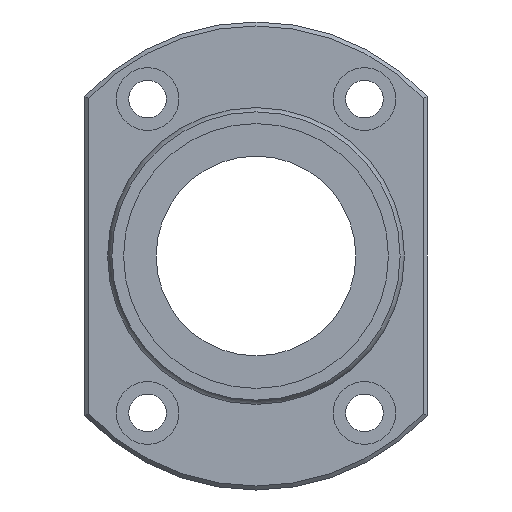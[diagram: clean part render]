
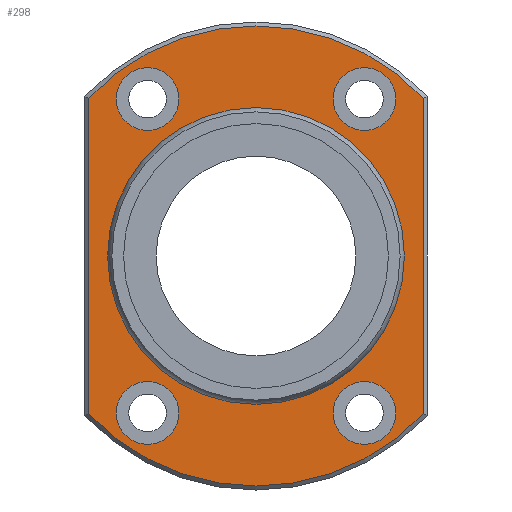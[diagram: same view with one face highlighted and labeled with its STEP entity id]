
A CAD part, left-side view. The second image highlights one B-rep face of the part: STEP entity #298.
In plain terms, the highlighted planar face has unit normal (-1, 0, 0).
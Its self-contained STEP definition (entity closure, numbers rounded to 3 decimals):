
#59=CARTESIAN_POINT('',(62.,-29.3,27.669));
#60=VERTEX_POINT('',#59);
#68=CARTESIAN_POINT('',(62.,-29.3,-27.669));
#69=VERTEX_POINT('',#68);
#70=CARTESIAN_POINT('',(62.,-29.3,27.669));
#71=DIRECTION('',(0.0,0.0,-1.0));
#72=VECTOR('',#71,55.339);
#73=LINE('',#70,#72);
#74=EDGE_CURVE('',#60,#69,#73,.T.);
#101=CARTESIAN_POINT('',(62.,29.3,-27.669));
#102=VERTEX_POINT('',#101);
#103=CARTESIAN_POINT('',(62.,0.0,0.0));
#104=DIRECTION('',(1.0,0.0,0.0));
#105=DIRECTION('',(0.0,0.0,-1.0));
#106=AXIS2_PLACEMENT_3D('',#103,#104,#105);
#107=CIRCLE('',#106,40.3);
#108=EDGE_CURVE('',#69,#102,#107,.T.);
#134=CARTESIAN_POINT('',(62.,29.3,27.669));
#135=VERTEX_POINT('',#134);
#136=CARTESIAN_POINT('',(62.,29.3,-27.669));
#137=DIRECTION('',(0.0,0.0,1.0));
#138=VECTOR('',#137,55.339);
#139=LINE('',#136,#138);
#140=EDGE_CURVE('',#102,#135,#139,.T.);
#165=CARTESIAN_POINT('',(62.,0.0,0.0));
#166=DIRECTION('',(1.0,0.0,0.0));
#167=DIRECTION('',(0.0,0.0,1.0));
#168=AXIS2_PLACEMENT_3D('',#165,#166,#167);
#169=CIRCLE('',#168,40.3);
#170=EDGE_CURVE('',#135,#60,#169,.T.);
#232=CARTESIAN_POINT('',(62.,0.0,33.357));
#233=DIRECTION('',(-1.0,0.0,0.0));
#234=DIRECTION('',(0.0,0.0,1.0));
#235=AXIS2_PLACEMENT_3D('',#232,#233,#234);
#236=PLANE('',#235);
#237=ORIENTED_EDGE('',*,*,#74,.F.);
#238=ORIENTED_EDGE('',*,*,#170,.F.);
#239=ORIENTED_EDGE('',*,*,#140,.F.);
#240=ORIENTED_EDGE('',*,*,#108,.F.);
#241=EDGE_LOOP('',(#237,#238,#239,#240));
#242=FACE_OUTER_BOUND('',#241,.T.);
#243=CARTESIAN_POINT('',(62.0,0.0,25.714));
#244=VERTEX_POINT('',#243);
#245=CARTESIAN_POINT('',(62.0,0.0,0.0));
#246=DIRECTION('',(-1.0,0.0,0.0));
#247=DIRECTION('',(0.0,0.0,1.0));
#248=AXIS2_PLACEMENT_3D('',#245,#246,#247);
#249=CIRCLE('',#248,25.714);
#250=EDGE_CURVE('',#244,#244,#249,.T.);
#251=ORIENTED_EDGE('',*,*,#250,.F.);
#252=EDGE_LOOP('',(#251));
#253=FACE_BOUND('',#252,.T.);
#254=CARTESIAN_POINT('',(62.0,-13.5,-27.5));
#255=VERTEX_POINT('',#254);
#256=CARTESIAN_POINT('',(62.,-19.,-27.5));
#257=DIRECTION('',(1.0,0.0,0.0));
#258=DIRECTION('',(0.0,1.0,0.0));
#259=AXIS2_PLACEMENT_3D('',#256,#257,#258);
#260=CIRCLE('',#259,5.5);
#261=EDGE_CURVE('',#255,#255,#260,.T.);
#262=ORIENTED_EDGE('',*,*,#261,.T.);
#263=EDGE_LOOP('',(#262));
#264=FACE_BOUND('',#263,.T.);
#265=CARTESIAN_POINT('',(62.0,-13.5,27.5));
#266=VERTEX_POINT('',#265);
#267=CARTESIAN_POINT('',(62.,-19.,27.5));
#268=DIRECTION('',(1.0,0.0,0.0));
#269=DIRECTION('',(0.0,1.0,0.0));
#270=AXIS2_PLACEMENT_3D('',#267,#268,#269);
#271=CIRCLE('',#270,5.5);
#272=EDGE_CURVE('',#266,#266,#271,.T.);
#273=ORIENTED_EDGE('',*,*,#272,.T.);
#274=EDGE_LOOP('',(#273));
#275=FACE_BOUND('',#274,.T.);
#276=CARTESIAN_POINT('',(62.0,24.5,-27.5));
#277=VERTEX_POINT('',#276);
#278=CARTESIAN_POINT('',(62.,19.,-27.5));
#279=DIRECTION('',(1.0,0.0,0.0));
#280=DIRECTION('',(0.0,1.0,0.0));
#281=AXIS2_PLACEMENT_3D('',#278,#279,#280);
#282=CIRCLE('',#281,5.5);
#283=EDGE_CURVE('',#277,#277,#282,.T.);
#284=ORIENTED_EDGE('',*,*,#283,.T.);
#285=EDGE_LOOP('',(#284));
#286=FACE_BOUND('',#285,.T.);
#287=CARTESIAN_POINT('',(62.0,24.5,27.5));
#288=VERTEX_POINT('',#287);
#289=CARTESIAN_POINT('',(62.,19.,27.5));
#290=DIRECTION('',(1.0,0.0,0.0));
#291=DIRECTION('',(0.0,1.0,0.0));
#292=AXIS2_PLACEMENT_3D('',#289,#290,#291);
#293=CIRCLE('',#292,5.5);
#294=EDGE_CURVE('',#288,#288,#293,.T.);
#295=ORIENTED_EDGE('',*,*,#294,.T.);
#296=EDGE_LOOP('',(#295));
#297=FACE_BOUND('',#296,.T.);
#298=ADVANCED_FACE('',(#242,#253,#264,#275,#286,#297),#236,.T.);
